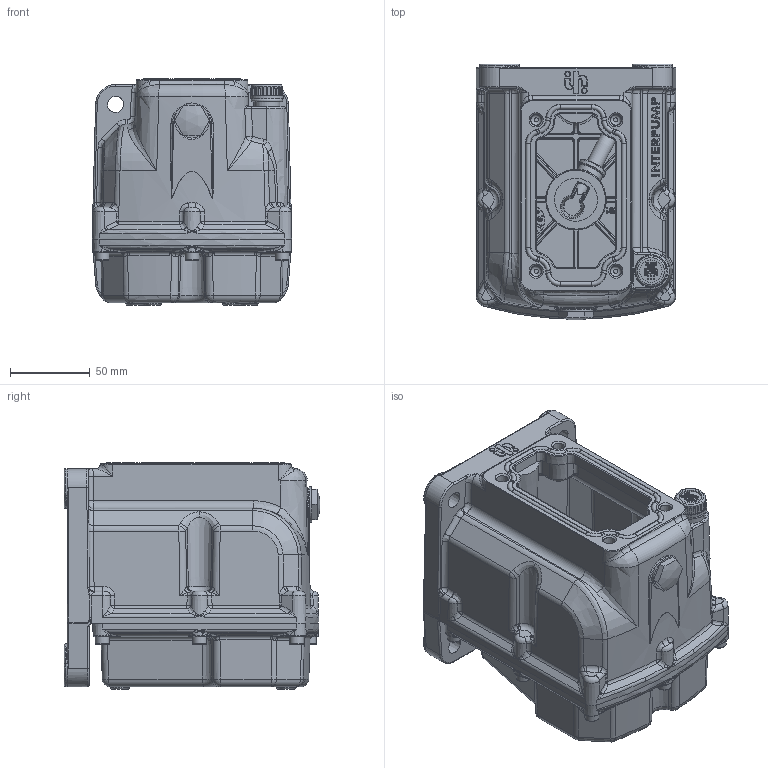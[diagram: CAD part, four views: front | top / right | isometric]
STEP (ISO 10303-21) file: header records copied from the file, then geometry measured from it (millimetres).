
FILE_DESCRIPTION(/* description */ ('Unknown'),/* implementation_level */ '2;1');
FILE_NAME(/* name */ 'PAMSAL0100',/* time_stamp */ '2017-08-02T14:55:52+02:00',/* author */ ('Unknown'),/* organization */ ('Unknown'),/* preprocessor_version */ 'ST-DEVELOPER v16.7',/* originating_system */ 'DEX',/* authorisation */ $);
FILE_SCHEMA (('AUTOMOTIVE_DESIGN {1 0 10303 214 3 1 1}'));
Products named in the file (12): PAMSAL0100; PAMSJ2900009885; PAMSJ2900009891; PAMSJ2900009836; PAMSJ2900009836_1; PAMSJ2900009778; PAMSJ2900009902; PAMSJ2900009904; pamj040009; PAMSJ2900009905; PAMSJ2900009916
Assembly tree (18 placements, depth 3):
  PAMSAL0100
    PAMSJ2900009885
    PAMSJ2900009891
    PAMSJ2900009836
      PAMSJ2900009836_1
    PAMSJ2900009778
    PAMSJ2900009902
    PAMSJ2900009904  x8
    pamj040009
    PAMSJ2900009905
    PAMSJ2900009916
      PAMSJ2900009916
Bounding box: 125.41 x 160.59 x 142.1 mm (x, y, z)
Volume: 525095.3 mm3; surface area: 253821.6 mm2
Topology: 18 solids, 18 shells, 4110 faces, 10114 edges, 5968 vertices
Faces by surface type: bspline 1261, cylinder 1006, plane 992, torus 418, cone 285, sphere 148
Full cylindrical faces by diameter (mm): 1 x1, 2 x1, 2.9 x30, 4 x1, 4.5 x1, 5 x8, 8 x2, 8.72 x8, 9.5 x1, 10 x2, 11.3 x1, 11.5 x1, 12.5 x1, 14 x1, 14.3 x1, 14.5 x1, 15 x1, 16 x1, 16.3 x2, 18 x1, 19 x1, 19.5 x1, 20 x1, 20.5 x1, 22 x1, 27 x1, 30 x1, 38 x1
Entity records: 166516 total; most frequent: CARTESIAN_POINT 84080, ORIENTED_EDGE 18274, DIRECTION 14714, EDGE_CURVE 9137, AXIS2_PLACEMENT_3D 5688, VERTEX_POINT 5579, FACE_BOUND 4310, EDGE_LOOP 4307
